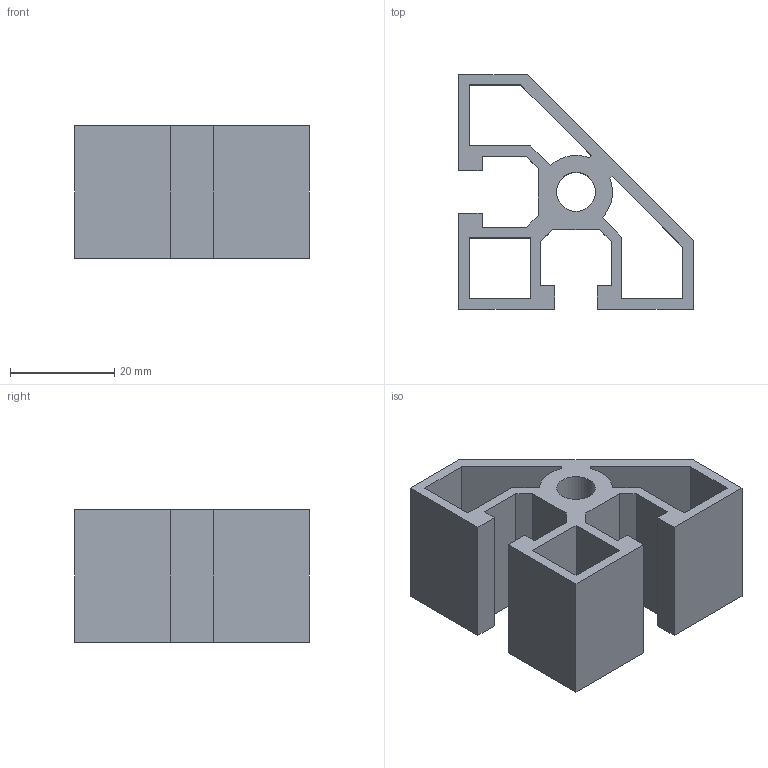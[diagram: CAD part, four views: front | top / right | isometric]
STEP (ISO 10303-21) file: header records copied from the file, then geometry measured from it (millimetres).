
FILE_DESCRIPTION((''),'2;1');
FILE_NAME('C:\Documents and Settings\Administrator\My Documents\Andys Backup Data\WEBSITE\DREAMWEAVER\MiniTec\Products\Aluminum_Profiles\CAD\STEP\20.1029 45X45 DEG.stp','2010-08-16T09:44:35',('Administrator'),(''),'Autodesk Inventor 2009','Autodesk Inventor 2009','');
FILE_SCHEMA(('CONFIG_CONTROL_DESIGN'));
Length unit declared in the file: inch
Products named in the file (1): 20.1029 45X45 DEG
Bounding box: 45 x 45 x 25.4 mm (x, y, z)
Volume: 14354.7 mm3; surface area: 12370.2 mm2
Topology: 1 solids, 1 shells, 46 faces, 132 edges, 88 vertices
Faces by surface type: plane 43, cylinder 3
Full cylindrical faces by diameter (mm): 7.5 x1
Entity records: 1512 total; most frequent: CARTESIAN_POINT 266, ORIENTED_EDGE 262, DIRECTION 231, EDGE_CURVE 131, VECTOR 125, LINE 125, VERTEX_POINT 88, EDGE_LOOP 55
